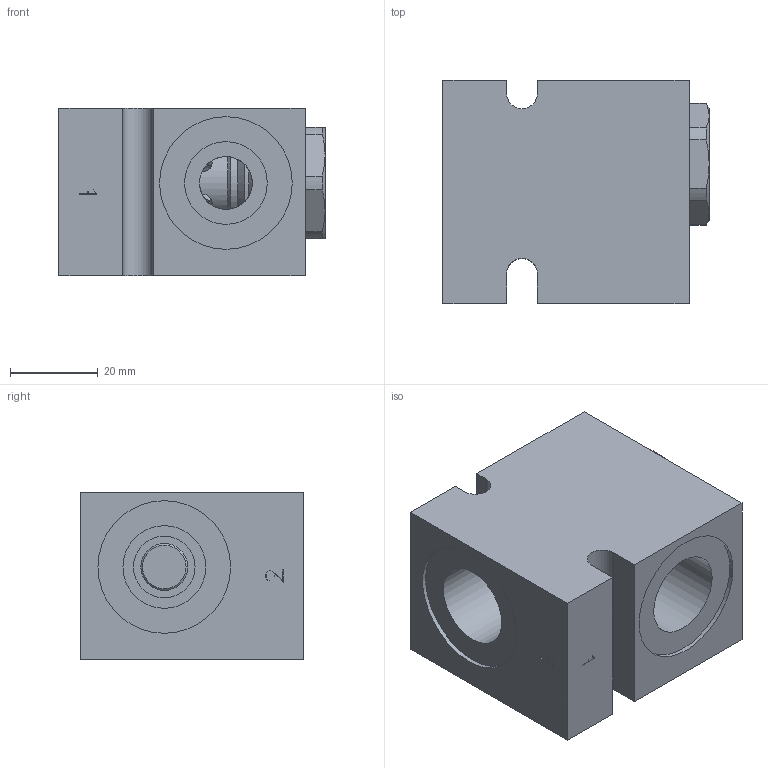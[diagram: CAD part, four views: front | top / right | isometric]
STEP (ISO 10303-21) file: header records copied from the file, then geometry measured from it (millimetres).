
FILE_DESCRIPTION( ( 'Unknown' ), '1' );
FILE_NAME( 'G:/Graphic Design/Graphic Design 2/Data Sheets/MANUAL_MECH OPERATED VALVES/4_STEP/Direct Acting Check Valves/D-DECVR00-C2.stp', 'Unknown', ( 'Unknown' ), ( 'Unknown' ), 'PSStep 16.0.42', 'Unknown', ' ' );
FILE_SCHEMA( ( 'AUTOMOTIVE_DESIGN { 1 0 10303 214 1 1 1 1 }' ) );
Length unit declared in the file: millimetre
Products named in the file (7): DECVR00; DECVR00-3D Full1; DECVR00-3D Full2; DECVR00-3D Full3; DECVR00-3D Full4; Assem1; B-DDEC2
Assembly tree (6 placements, depth 3):
  Assem1
    B-DDEC2
    DECVR00
      DECVR00-3D Full1
      DECVR00-3D Full2
      DECVR00-3D Full3
      DECVR00-3D Full4
Bounding box: 60.56 x 50.8 x 38.1 mm (x, y, z)
Surface area: 24231.7 mm2 (no closed solid volume)
Topology: 0 solids, 150 shells, 150 faces, 646 edges, 588 vertices
Faces by surface type: plane 74, cylinder 38, cone 33, torus 5
Full cylindrical faces by diameter (mm): 0.2 x2, 4.724 x1, 4.775 x5, 10.16 x1, 10.655 x1, 12 x1, 13.005 x1, 13.043 x1, 14 x1, 15.735 x1, 15.748 x2, 15.9 x1, 17.043 x1, 17.323 x1, 18.8 x4, 19.622 x1, 20.262 x2, 30.17 x2, 30.175 x1
Entity records: 8542 total; most frequent: CARTESIAN_POINT 2844, DIRECTION 858, VERTEX_POINT 574, ORIENTED_EDGE 572, EDGE_CURVE 572, AXIS2_PLACEMENT_3D 348, FACE_BOUND 235, EDGE_LOOP 233
